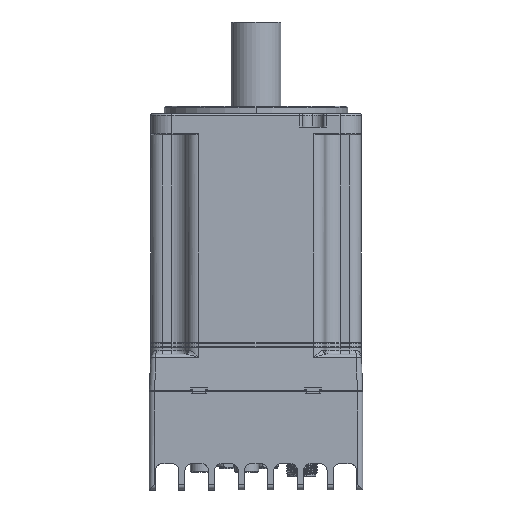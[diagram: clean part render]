
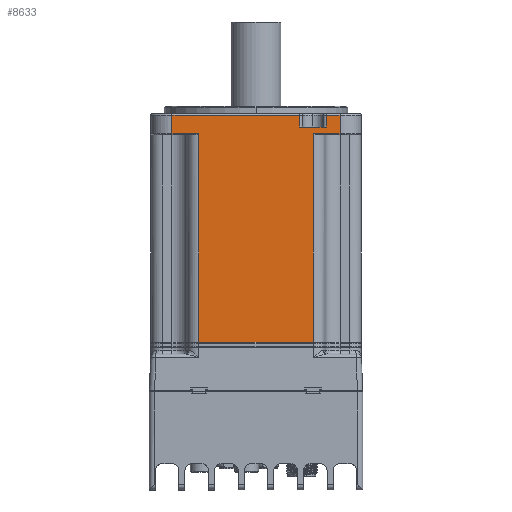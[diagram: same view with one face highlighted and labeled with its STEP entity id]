
A CAD part, front view. The second image highlights one B-rep face of the part: STEP entity #8633.
In plain terms, the highlighted planar face has unit normal (0, -1, 0).
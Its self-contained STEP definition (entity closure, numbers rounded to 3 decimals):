
#741 = CARTESIAN_POINT ( 'NONE',  ( -32., -31.858, 46.51 ) ) ;
#1074 = ORIENTED_EDGE ( 'NONE', *, *, #72301, .T. ) ;
#2022 = VERTEX_POINT ( 'NONE', #25092 ) ;
#2463 = CARTESIAN_POINT ( 'NONE',  ( 26.684, -31.858, 42.01 ) ) ;
#4693 = DIRECTION ( 'NONE',  ( 0., 0., -1. ) ) ;
#5037 = EDGE_CURVE ( 'NONE', #82295, #14021, #52928, .T. ) ;
#6216 = VERTEX_POINT ( 'NONE', #77412 ) ;
#6861 = VERTEX_POINT ( 'NONE', #18091 ) ;
#7779 = CARTESIAN_POINT ( 'NONE',  ( 26.684, -31.858, 46.51 ) ) ;
#8633 = ADVANCED_FACE ( 'NONE', ( #81775 ), #74842, .F. ) ;
#8922 = ORIENTED_EDGE ( 'NONE', *, *, #39685, .T. ) ;
#9611 = CARTESIAN_POINT ( 'NONE',  ( 26.684, -31.858, 35.51 ) ) ;
#10072 = VERTEX_POINT ( 'NONE', #53198 ) ;
#10964 = CARTESIAN_POINT ( 'NONE',  ( -21.75, -31.858, 39.51 ) ) ;
#12494 = EDGE_CURVE ( 'NONE', #61032, #79238, #57570, .T. ) ;
#12926 = DIRECTION ( 'NONE',  ( 0., 0., 1. ) ) ;
#14021 = VERTEX_POINT ( 'NONE', #2463 ) ;
#16990 = VECTOR ( 'NONE', #41604, 1000. ) ;
#17811 = LINE ( 'NONE', #52665, #73687 ) ;
#18091 = CARTESIAN_POINT ( 'NONE',  ( 21.75, -31.858, 39.51 ) ) ;
#18212 = ORIENTED_EDGE ( 'NONE', *, *, #53791, .T. ) ;
#18229 = DIRECTION ( 'NONE',  ( 0., 0., 1. ) ) ;
#18719 = DIRECTION ( 'NONE',  ( 1., 0., 0. ) ) ;
#20190 = CARTESIAN_POINT ( 'NONE',  ( 40., -31.858, 42.01 ) ) ;
#20207 = VECTOR ( 'NONE', #83922, 1000. ) ;
#20395 = VERTEX_POINT ( 'NONE', #80996 ) ;
#22049 = VECTOR ( 'NONE', #48285, 1000. ) ;
#22995 = EDGE_CURVE ( 'NONE', #57084, #59218, #38718, .T. ) ;
#23141 = ORIENTED_EDGE ( 'NONE', *, *, #63102, .F. ) ;
#23261 = DIRECTION ( 'NONE',  ( 0., 0., 1. ) ) ;
#24917 = CARTESIAN_POINT ( 'NONE',  ( 40., -31.858, 39.51 ) ) ;
#25092 = CARTESIAN_POINT ( 'NONE',  ( -32., -31.858, 46.51 ) ) ;
#27021 = ORIENTED_EDGE ( 'NONE', *, *, #51910, .T. ) ;
#27275 = LINE ( 'NONE', #85730, #53235 ) ;
#30289 = CARTESIAN_POINT ( 'NONE',  ( 40., -31.858, -39.99 ) ) ;
#31484 = LINE ( 'NONE', #24917, #77615 ) ;
#32032 = LINE ( 'NONE', #46792, #47634 ) ;
#36229 = DIRECTION ( 'NONE',  ( 0., 0., -1. ) ) ;
#36704 = ORIENTED_EDGE ( 'NONE', *, *, #5037, .F. ) ;
#38051 = DIRECTION ( 'NONE',  ( 1., 0., 0. ) ) ;
#38128 = CARTESIAN_POINT ( 'NONE',  ( -32., -31.858, 35.51 ) ) ;
#38718 = LINE ( 'NONE', #65315, #52341 ) ;
#39685 = EDGE_CURVE ( 'NONE', #10072, #2022, #41766, .T. ) ;
#39954 = VECTOR ( 'NONE', #36229, 1000. ) ;
#41604 = DIRECTION ( 'NONE',  ( 0., 0., 1. ) ) ;
#41766 = LINE ( 'NONE', #741, #22049 ) ;
#42511 = VECTOR ( 'NONE', #18719, 1000. ) ;
#44199 = EDGE_LOOP ( 'NONE', ( #1074, #27021, #58242, #72871, #48536, #36704, #84407, #8922, #77333, #18212, #82161, #23141 ) ) ;
#46792 = CARTESIAN_POINT ( 'NONE',  ( 40., -31.858, -39.99 ) ) ;
#47634 = VECTOR ( 'NONE', #59046, 1000. ) ;
#48285 = DIRECTION ( 'NONE',  ( -1., 0., 0. ) ) ;
#48536 = ORIENTED_EDGE ( 'NONE', *, *, #74296, .T. ) ;
#51910 = EDGE_CURVE ( 'NONE', #6861, #6216, #83351, .T. ) ;
#52341 = VECTOR ( 'NONE', #4693, 1000. ) ;
#52525 = VECTOR ( 'NONE', #73497, 1000. ) ;
#52665 = CARTESIAN_POINT ( 'NONE',  ( 21.75, -31.858, -39.99 ) ) ;
#52928 = LINE ( 'NONE', #20190, #52525 ) ;
#53198 = CARTESIAN_POINT ( 'NONE',  ( 16.684, -31.858, 46.51 ) ) ;
#53235 = VECTOR ( 'NONE', #12926, 1000. ) ;
#53791 = EDGE_CURVE ( 'NONE', #20395, #57084, #31484, .T. ) ;
#57084 = VERTEX_POINT ( 'NONE', #10964 ) ;
#57570 = LINE ( 'NONE', #84176, #66569 ) ;
#58168 = LINE ( 'NONE', #38128, #20207 ) ;
#58242 = ORIENTED_EDGE ( 'NONE', *, *, #82123, .T. ) ;
#58433 = DIRECTION ( 'NONE',  ( -1., 0., 0. ) ) ;
#59046 = DIRECTION ( 'NONE',  ( -1., 0., 0. ) ) ;
#59218 = VERTEX_POINT ( 'NONE', #61756 ) ;
#61032 = VERTEX_POINT ( 'NONE', #78507 ) ;
#61187 = LINE ( 'NONE', #74342, #16990 ) ;
#61756 = CARTESIAN_POINT ( 'NONE',  ( -21.75, -31.858, -39.99 ) ) ;
#62365 = LINE ( 'NONE', #9611, #39954 ) ;
#62981 = DIRECTION ( 'NONE',  ( 0., 1., 0. ) ) ;
#63102 = EDGE_CURVE ( 'NONE', #66118, #59218, #32032, .T. ) ;
#63197 = EDGE_CURVE ( 'NONE', #82295, #10072, #61187, .T. ) ;
#64248 = AXIS2_PLACEMENT_3D ( 'NONE', #30289, #62981, #23261 ) ;
#65008 = CARTESIAN_POINT ( 'NONE',  ( 40., -31.858, 39.51 ) ) ;
#65315 = CARTESIAN_POINT ( 'NONE',  ( -21.75, -31.858, -39.99 ) ) ;
#66118 = VERTEX_POINT ( 'NONE', #77682 ) ;
#66569 = VECTOR ( 'NONE', #58433, 1000. ) ;
#69195 = CARTESIAN_POINT ( 'NONE',  ( 16.684, -31.858, 42.01 ) ) ;
#72301 = EDGE_CURVE ( 'NONE', #66118, #6861, #17811, .T. ) ;
#72871 = ORIENTED_EDGE ( 'NONE', *, *, #12494, .T. ) ;
#73497 = DIRECTION ( 'NONE',  ( 1., 0., 0. ) ) ;
#73687 = VECTOR ( 'NONE', #18229, 1000. ) ;
#74296 = EDGE_CURVE ( 'NONE', #79238, #14021, #62365, .T. ) ;
#74342 = CARTESIAN_POINT ( 'NONE',  ( 16.684, -31.858, 35.51 ) ) ;
#74842 = PLANE ( 'NONE',  #64248 ) ;
#77333 = ORIENTED_EDGE ( 'NONE', *, *, #84222, .T. ) ;
#77412 = CARTESIAN_POINT ( 'NONE',  ( 32., -31.858, 39.51 ) ) ;
#77615 = VECTOR ( 'NONE', #38051, 1000. ) ;
#77682 = CARTESIAN_POINT ( 'NONE',  ( 21.75, -31.858, -39.99 ) ) ;
#78507 = CARTESIAN_POINT ( 'NONE',  ( 32., -31.858, 46.51 ) ) ;
#79238 = VERTEX_POINT ( 'NONE', #7779 ) ;
#80996 = CARTESIAN_POINT ( 'NONE',  ( -32., -31.858, 39.51 ) ) ;
#81775 = FACE_OUTER_BOUND ( 'NONE', #44199, .T. ) ;
#82123 = EDGE_CURVE ( 'NONE', #6216, #61032, #27275, .T. ) ;
#82161 = ORIENTED_EDGE ( 'NONE', *, *, #22995, .T. ) ;
#82295 = VERTEX_POINT ( 'NONE', #69195 ) ;
#83351 = LINE ( 'NONE', #65008, #42511 ) ;
#83922 = DIRECTION ( 'NONE',  ( 0., 0., -1. ) ) ;
#84176 = CARTESIAN_POINT ( 'NONE',  ( 26.684, -31.858, 46.51 ) ) ;
#84222 = EDGE_CURVE ( 'NONE', #2022, #20395, #58168, .T. ) ;
#84407 = ORIENTED_EDGE ( 'NONE', *, *, #63197, .T. ) ;
#85730 = CARTESIAN_POINT ( 'NONE',  ( 32., -31.858, 35.51 ) ) ;
